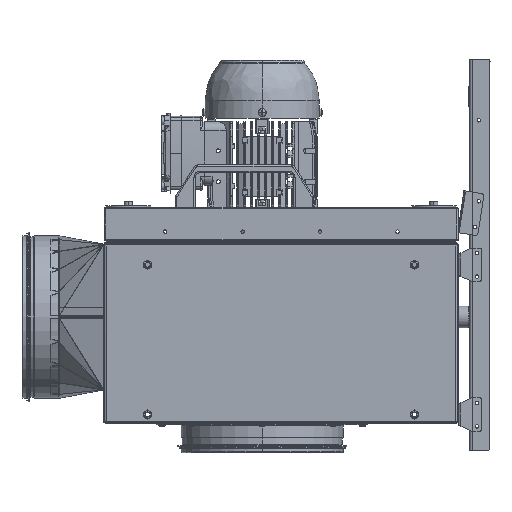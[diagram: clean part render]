
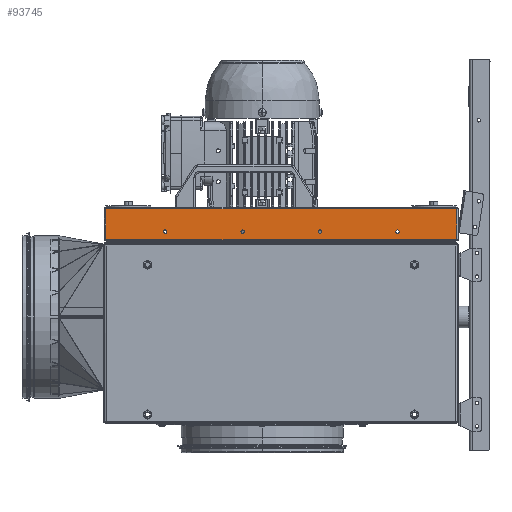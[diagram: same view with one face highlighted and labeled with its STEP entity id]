
A CAD part, left-side view. The second image highlights one B-rep face of the part: STEP entity #93745.
In plain terms, the highlighted planar face has unit normal (-1, 0, 0).
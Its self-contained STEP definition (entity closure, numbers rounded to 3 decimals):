
#89 = VERTEX_POINT ( 'NONE', #64812 ) ;
#1482 = VERTEX_POINT ( 'NONE', #88460 ) ;
#1725 = LINE ( 'NONE', #42202, #86175 ) ;
#7788 = DIRECTION ( 'NONE',  ( 0., 0., -1. ) ) ;
#8078 = AXIS2_PLACEMENT_3D ( 'NONE', #98659, #35387, #109252 ) ;
#8459 = AXIS2_PLACEMENT_3D ( 'NONE', #34552, #108408, #45135 ) ;
#8682 = LINE ( 'NONE', #83141, #93127 ) ;
#9859 = FACE_BOUND ( 'NONE', #85807, .T. ) ;
#10181 = ORIENTED_EDGE ( 'NONE', *, *, #74471, .T. ) ;
#13982 = VERTEX_POINT ( 'NONE', #22229 ) ;
#14662 = CIRCLE ( 'NONE', #16211, 2.1 ) ;
#15348 = CARTESIAN_POINT ( 'NONE',  ( -246.065, -47.86, 233.3 ) ) ;
#16211 = AXIS2_PLACEMENT_3D ( 'NONE', #58053, #132005, #68703 ) ;
#20837 = CARTESIAN_POINT ( 'NONE',  ( -246.065, -215.34, 224.9 ) ) ;
#21261 = AXIS2_PLACEMENT_3D ( 'NONE', #44458, #118341, #55049 ) ;
#22229 = CARTESIAN_POINT ( 'NONE',  ( -246.065, 215.14, 224.9 ) ) ;
#22656 = CARTESIAN_POINT ( 'NONE',  ( -246.065, 47.14, 237.5 ) ) ;
#23359 = VECTOR ( 'NONE', #105404, 1000. ) ;
#24432 = VERTEX_POINT ( 'NONE', #59247 ) ;
#26849 = AXIS2_PLACEMENT_3D ( 'NONE', #45828, #119780, #56434 ) ;
#30889 = VERTEX_POINT ( 'NONE', #33439 ) ;
#30987 = CARTESIAN_POINT ( 'NONE',  ( -246.065, -142.86, 233.3 ) ) ;
#31421 = FACE_BOUND ( 'NONE', #88238, .T. ) ;
#31555 = VERTEX_POINT ( 'NONE', #128913 ) ;
#32531 = ORIENTED_EDGE ( 'NONE', *, *, #50332, .T. ) ;
#33084 = ORIENTED_EDGE ( 'NONE', *, *, #108580, .T. ) ;
#33439 = CARTESIAN_POINT ( 'NONE',  ( -246.065, -47.86, 237.5 ) ) ;
#34552 = CARTESIAN_POINT ( 'NONE',  ( -246.065, 142.14, 235.4 ) ) ;
#35387 = DIRECTION ( 'NONE',  ( 1., 0., 0. ) ) ;
#38804 = EDGE_LOOP ( 'NONE', ( #116943, #109495, #57842, #121898 ) ) ;
#40499 = EDGE_CURVE ( 'NONE', #119444, #71184, #14662, .T. ) ;
#40524 = CIRCLE ( 'NONE', #21261, 2.1 ) ;
#41732 = ORIENTED_EDGE ( 'NONE', *, *, #50961, .T. ) ;
#42202 = CARTESIAN_POINT ( 'NONE',  ( -246.065, -216.54, 224.9 ) ) ;
#43222 = ORIENTED_EDGE ( 'NONE', *, *, #80462, .T. ) ;
#43534 = LINE ( 'NONE', #126678, #93190 ) ;
#44458 = CARTESIAN_POINT ( 'NONE',  ( -246.065, 47.14, 235.4 ) ) ;
#44462 = EDGE_CURVE ( 'NONE', #124163, #1482, #8682, .T. ) ;
#45135 = DIRECTION ( 'NONE',  ( 0., 0., -1. ) ) ;
#45828 = CARTESIAN_POINT ( 'NONE',  ( -246.065, -47.86, 235.4 ) ) ;
#46718 = DIRECTION ( 'NONE',  ( 1., 0., 0. ) ) ;
#50332 = EDGE_CURVE ( 'NONE', #97257, #30889, #75466, .T. ) ;
#50676 = AXIS2_PLACEMENT_3D ( 'NONE', #115273, #52027, #125991 ) ;
#50961 = EDGE_CURVE ( 'NONE', #89, #31555, #68698, .T. ) ;
#51241 = DIRECTION ( 'NONE',  ( 0., -1., 0. ) ) ;
#51614 = ORIENTED_EDGE ( 'NONE', *, *, #40499, .T. ) ;
#52027 = DIRECTION ( 'NONE',  ( 1., 0., 0. ) ) ;
#52829 = DIRECTION ( 'NONE',  ( 0., -1., 0. ) ) ;
#54170 = DIRECTION ( 'NONE',  ( 1., 0., 0. ) ) ;
#54186 = CARTESIAN_POINT ( 'NONE',  ( -246.065, 215.14, 263.4 ) ) ;
#55049 = DIRECTION ( 'NONE',  ( 0., 0., -1. ) ) ;
#56178 = LINE ( 'NONE', #20837, #23359 ) ;
#56434 = DIRECTION ( 'NONE',  ( 0., 0., -1. ) ) ;
#57446 = EDGE_LOOP ( 'NONE', ( #41732, #10181 ) ) ;
#57842 = ORIENTED_EDGE ( 'NONE', *, *, #122347, .T. ) ;
#58053 = CARTESIAN_POINT ( 'NONE',  ( -246.065, -142.86, 235.4 ) ) ;
#59247 = CARTESIAN_POINT ( 'NONE',  ( -246.065, -215.34, 224.9 ) ) ;
#59490 = FACE_BOUND ( 'NONE', #60774, .T. ) ;
#60774 = EDGE_LOOP ( 'NONE', ( #32531, #33084 ) ) ;
#62820 = FACE_BOUND ( 'NONE', #57446, .T. ) ;
#64812 = CARTESIAN_POINT ( 'NONE',  ( -246.065, 142.14, 233.3 ) ) ;
#68001 = CIRCLE ( 'NONE', #116596, 2.1 ) ;
#68698 = CIRCLE ( 'NONE', #83490, 2.1 ) ;
#68703 = DIRECTION ( 'NONE',  ( 0., 0., -1. ) ) ;
#71183 = DIRECTION ( 'NONE',  ( 1., 0., 0. ) ) ;
#71184 = VERTEX_POINT ( 'NONE', #91342 ) ;
#73541 = DIRECTION ( 'NONE',  ( 0., 0., -1. ) ) ;
#74471 = EDGE_CURVE ( 'NONE', #31555, #89, #131360, .T. ) ;
#75466 = CIRCLE ( 'NONE', #8078, 2.1 ) ;
#80462 = EDGE_CURVE ( 'NONE', #115741, #135503, #117118, .T. ) ;
#83141 = CARTESIAN_POINT ( 'NONE',  ( -246.065, 216.34, 263.4 ) ) ;
#83490 = AXIS2_PLACEMENT_3D ( 'NONE', #109983, #46718, #120665 ) ;
#85807 = EDGE_LOOP ( 'NONE', ( #114984, #43222 ) ) ;
#86175 = VECTOR ( 'NONE', #52829, 1000. ) ;
#86517 = EDGE_CURVE ( 'NONE', #71184, #119444, #68001, .T. ) ;
#87675 = FACE_OUTER_BOUND ( 'NONE', #38804, .T. ) ;
#88238 = EDGE_LOOP ( 'NONE', ( #51614, #135649 ) ) ;
#88460 = CARTESIAN_POINT ( 'NONE',  ( -246.065, -215.34, 263.4 ) ) ;
#90303 = EDGE_CURVE ( 'NONE', #135503, #115741, #40524, .T. ) ;
#91342 = CARTESIAN_POINT ( 'NONE',  ( -246.065, -142.86, 237.5 ) ) ;
#93127 = VECTOR ( 'NONE', #51241, 1000. ) ;
#93190 = VECTOR ( 'NONE', #73541, 1000. ) ;
#93745 = ADVANCED_FACE ( 'NONE', ( #9859, #62820, #87675, #59490, #31421 ), #96276, .F. ) ;
#96276 = PLANE ( 'NONE',  #101193 ) ;
#97257 = VERTEX_POINT ( 'NONE', #15348 ) ;
#98659 = CARTESIAN_POINT ( 'NONE',  ( -246.065, -47.86, 235.4 ) ) ;
#101193 = AXIS2_PLACEMENT_3D ( 'NONE', #127691, #54170, #128137 ) ;
#103712 = CIRCLE ( 'NONE', #26849, 2.1 ) ;
#105404 = DIRECTION ( 'NONE',  ( 0., 0., 1. ) ) ;
#108408 = DIRECTION ( 'NONE',  ( 1., 0., 0. ) ) ;
#108580 = EDGE_CURVE ( 'NONE', #30889, #97257, #103712, .T. ) ;
#109252 = DIRECTION ( 'NONE',  ( 0., 0., -1. ) ) ;
#109495 = ORIENTED_EDGE ( 'NONE', *, *, #44462, .F. ) ;
#109983 = CARTESIAN_POINT ( 'NONE',  ( -246.065, 142.14, 235.4 ) ) ;
#114984 = ORIENTED_EDGE ( 'NONE', *, *, #90303, .T. ) ;
#115273 = CARTESIAN_POINT ( 'NONE',  ( -246.065, 47.14, 235.4 ) ) ;
#115741 = VERTEX_POINT ( 'NONE', #22656 ) ;
#116596 = AXIS2_PLACEMENT_3D ( 'NONE', #134482, #71183, #7788 ) ;
#116943 = ORIENTED_EDGE ( 'NONE', *, *, #131642, .T. ) ;
#117118 = CIRCLE ( 'NONE', #50676, 2.1 ) ;
#118341 = DIRECTION ( 'NONE',  ( 1., 0., 0. ) ) ;
#119444 = VERTEX_POINT ( 'NONE', #30987 ) ;
#119780 = DIRECTION ( 'NONE',  ( 1., 0., 0. ) ) ;
#120665 = DIRECTION ( 'NONE',  ( 0., 0., -1. ) ) ;
#121898 = ORIENTED_EDGE ( 'NONE', *, *, #124017, .T. ) ;
#122347 = EDGE_CURVE ( 'NONE', #124163, #13982, #43534, .T. ) ;
#124017 = EDGE_CURVE ( 'NONE', #13982, #24432, #1725, .T. ) ;
#124163 = VERTEX_POINT ( 'NONE', #54186 ) ;
#125991 = DIRECTION ( 'NONE',  ( 0., 0., -1. ) ) ;
#126678 = CARTESIAN_POINT ( 'NONE',  ( -246.065, 215.14, 263.4 ) ) ;
#127691 = CARTESIAN_POINT ( 'NONE',  ( -246.065, 216.34, 264.6 ) ) ;
#128137 = DIRECTION ( 'NONE',  ( 0., 0., -1. ) ) ;
#128913 = CARTESIAN_POINT ( 'NONE',  ( -246.065, 142.14, 237.5 ) ) ;
#131360 = CIRCLE ( 'NONE', #8459, 2.1 ) ;
#131642 = EDGE_CURVE ( 'NONE', #24432, #1482, #56178, .T. ) ;
#131714 = CARTESIAN_POINT ( 'NONE',  ( -246.065, 47.14, 233.3 ) ) ;
#132005 = DIRECTION ( 'NONE',  ( 1., 0., 0. ) ) ;
#134482 = CARTESIAN_POINT ( 'NONE',  ( -246.065, -142.86, 235.4 ) ) ;
#135503 = VERTEX_POINT ( 'NONE', #131714 ) ;
#135649 = ORIENTED_EDGE ( 'NONE', *, *, #86517, .T. ) ;
